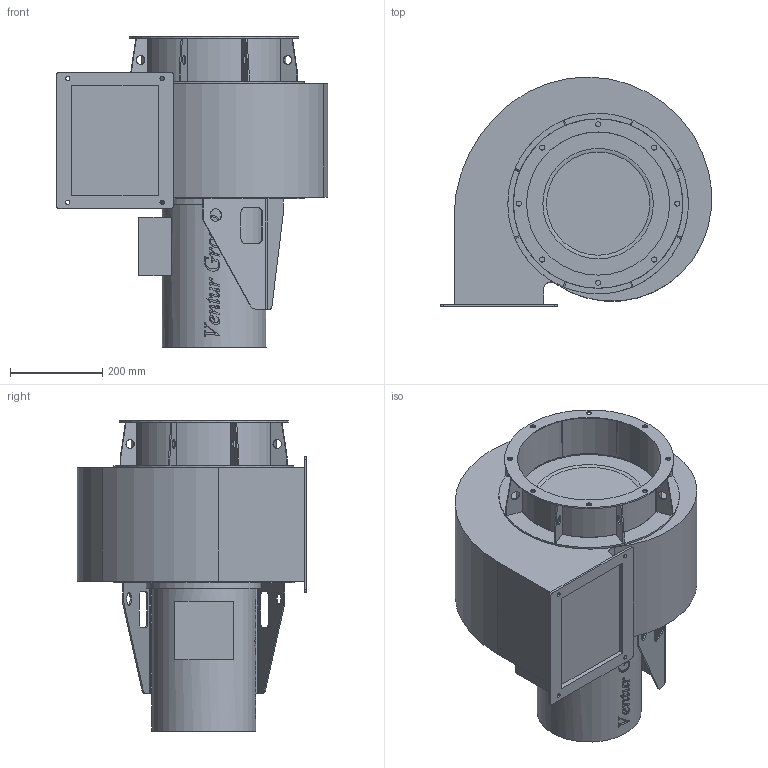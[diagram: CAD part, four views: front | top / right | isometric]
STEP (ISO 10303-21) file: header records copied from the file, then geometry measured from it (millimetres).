
FILE_DESCRIPTION(/* description */ (''),/* implementation_level */ '2;1');
FILE_NAME(/* name */ 'E:\Mariusz\Modele uproszczone\GMT-K\GMT-K_500_400T RD90 43552365\GMT-K_500_400T RD90 43552365\GMT-K_500_400T RD90 43552365.stp',/* time_stamp */ '2018-07-12T10:43:14+02:00',/* author */ ('M.Janczarek'),/* organization */ (''),/* preprocessor_version */ 'ST-DEVELOPER v16.5',/* originating_system */ 'Autodesk Inventor 2017',/* authorisation */ '');
FILE_SCHEMA (('AUTOMOTIVE_DESIGN { 1 0 10303 214 3 1 1 }'));
Length unit declared in the file: millimetre
Products named in the file (1): GMT-K_500_400T RD90 43552365
Bounding box: 588.94 x 498.98 x 674 mm (x, y, z)
Volume: 70996209.6 mm3; surface area: 1746684.8 mm2
Topology: 1 solids, 1 shells, 714 faces, 1992 edges, 1316 vertices
Faces by surface type: bspline 423, plane 181, cylinder 109, torus 1
Full cylindrical faces by diameter (mm): 9.2 x4, 11 x8, 20 x8, 27 x2, 226 x1, 250 x1, 311 x1, 315 x1, 368 x1, 392 x1, 393 x1
Entity records: 31083 total; most frequent: CARTESIAN_POINT 14975, ORIENTED_EDGE 3932, DIRECTION 2090, EDGE_CURVE 1958, VERTEX_POINT 1312, LINE 950, VECTOR 950, EDGE_LOOP 840
